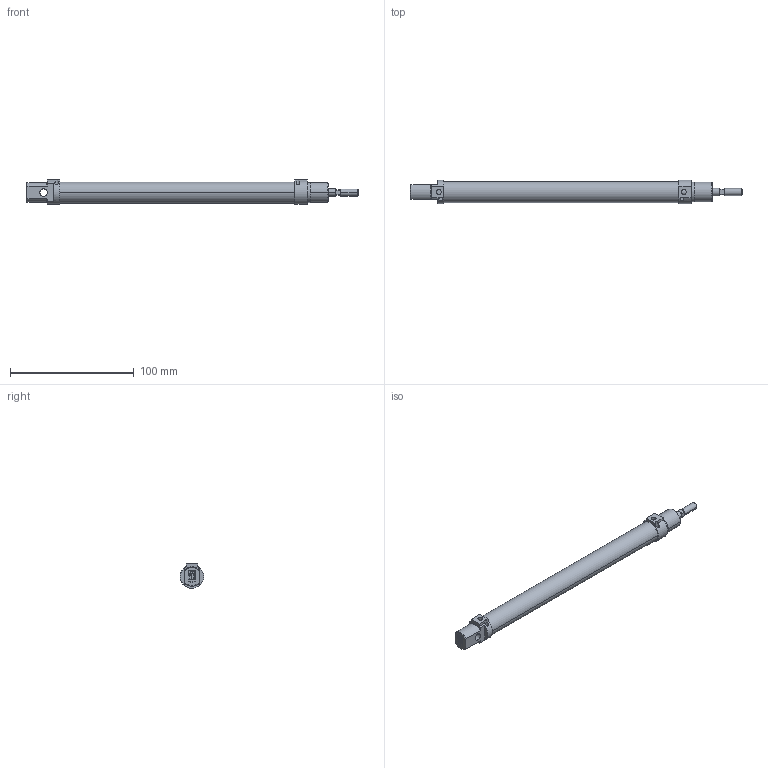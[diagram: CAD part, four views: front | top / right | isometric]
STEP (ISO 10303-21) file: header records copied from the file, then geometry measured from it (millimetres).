
FILE_DESCRIPTION(('CATIA V5 STEP Exchange'),'2;1');
FILE_NAME('D:\stp file for catalog\PSN\12\PSN-12-06-160.stp','2018-04-25T08:19:19+00:00',('none'),('none'),'CATIA Version 5-6 Release 2016','CATIA V5 STEP AP203','none');
FILE_SCHEMA(('CONFIG_CONTROL_DESIGN'));
Length unit declared in the file: millimetre
Products named in the file (1): PSN-12-06-160-00
Assembly tree (2 placements, depth 2):
  PSN-12-06-160-00
    #57
    #4991
Bounding box: 268.25 x 18.98 x 20 mm (x, y, z)
Volume: 41002.6 mm3; surface area: 27716.4 mm2
Topology: 2 solids, 3 shells, 200 faces, 506 edges, 334 vertices
Faces by surface type: plane 136, cylinder 58, cone 6
Entity records: 5681 total; most frequent: CARTESIAN_POINT 1087, ORIENTED_EDGE 1012, DIRECTION 753, EDGE_CURVE 506, VECTOR 356, LINE 356, VERTEX_POINT 334, AXIS2_PLACEMENT_3D 267
